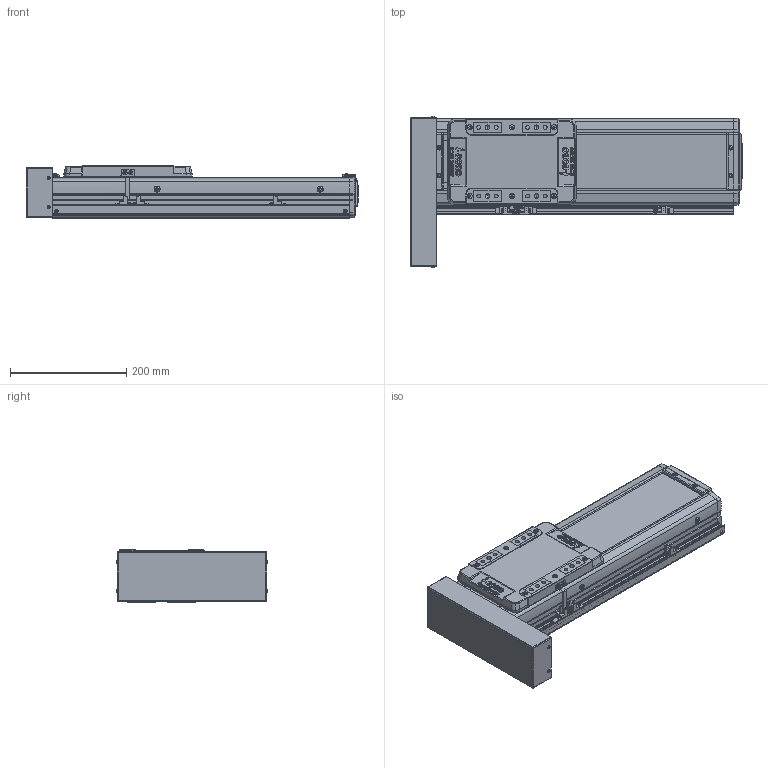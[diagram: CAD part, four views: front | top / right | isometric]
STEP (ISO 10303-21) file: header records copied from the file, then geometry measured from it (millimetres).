
FILE_DESCRIPTION(('STEP AP214'),'1');
FILE_NAME('Z:/Web/3D/SAN150/2013.04 (STP.)/SAN150ㅁㅁ-250PR+3SR.stp','2013-05-08T02:32:21',(' '),(' '),'Spatial InterOp 3D',' ',' ');
FILE_SCHEMA(('automotive_design'));
Length unit declared in the file: millimetre
Products named in the file (58): SLBL-SAN150; SLCV-SAN150; FHCS M4.0 x 8.0; BHCS M4.0 x 10.0; SFX-SAN150; RRCV-SAN150; FRBL-SAN150; Spacer; RN15; FRCV-SAN150; Screw 20; BASE-SAN150-000L ; SUS COVER; 스크루 : Round - M5.0 x 6.0; BHCS M3.0 x 6.0; P; M3.0 x 6.0; SRL-16x17-360L; SGD-SAN150; EE-SX674; SBK-SX674-352; 스크루 : Round - M3.0 x 6.0
Bounding box: 570 x 260.73 x 90 mm (x, y, z)
Volume: 4443843.5 mm3; surface area: 795662 mm2
Topology: 58 solids, 58 shells, 2554 faces, 6557 edges, 4218 vertices
Faces by surface type: plane 1382, cylinder 809, cone 250, sphere 80, bspline 21, torus 12
Entity records: 100670 total; most frequent: CARTESIAN_POINT 15657, DIRECTION 13864, ORIENTED_EDGE 12906, EDGE_CURVE 6453, AXIS2_PLACEMENT_3D 4896, VERTEX_POINT 4218, LINE 4072, VECTOR 4072
